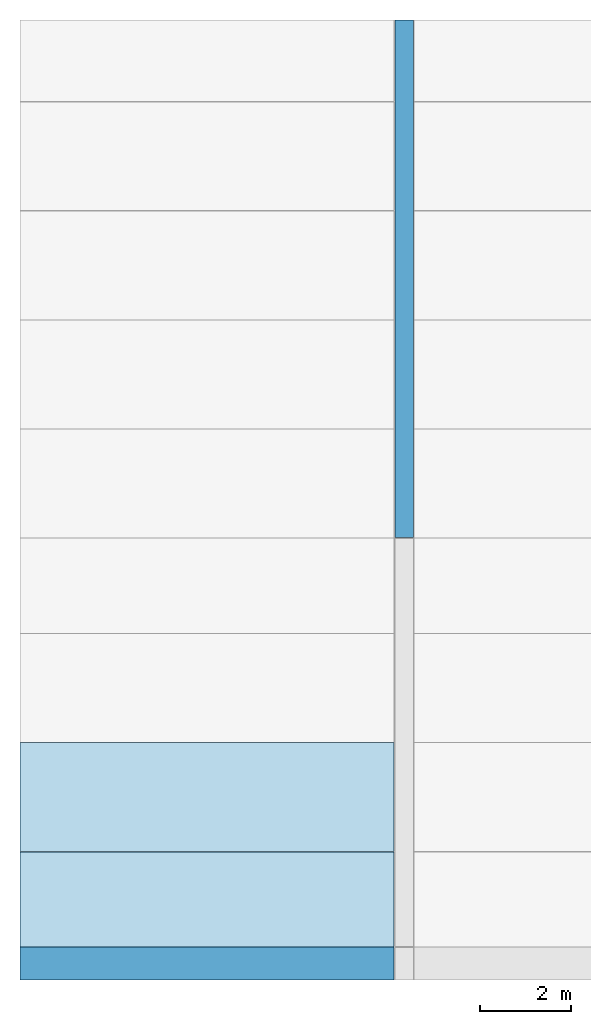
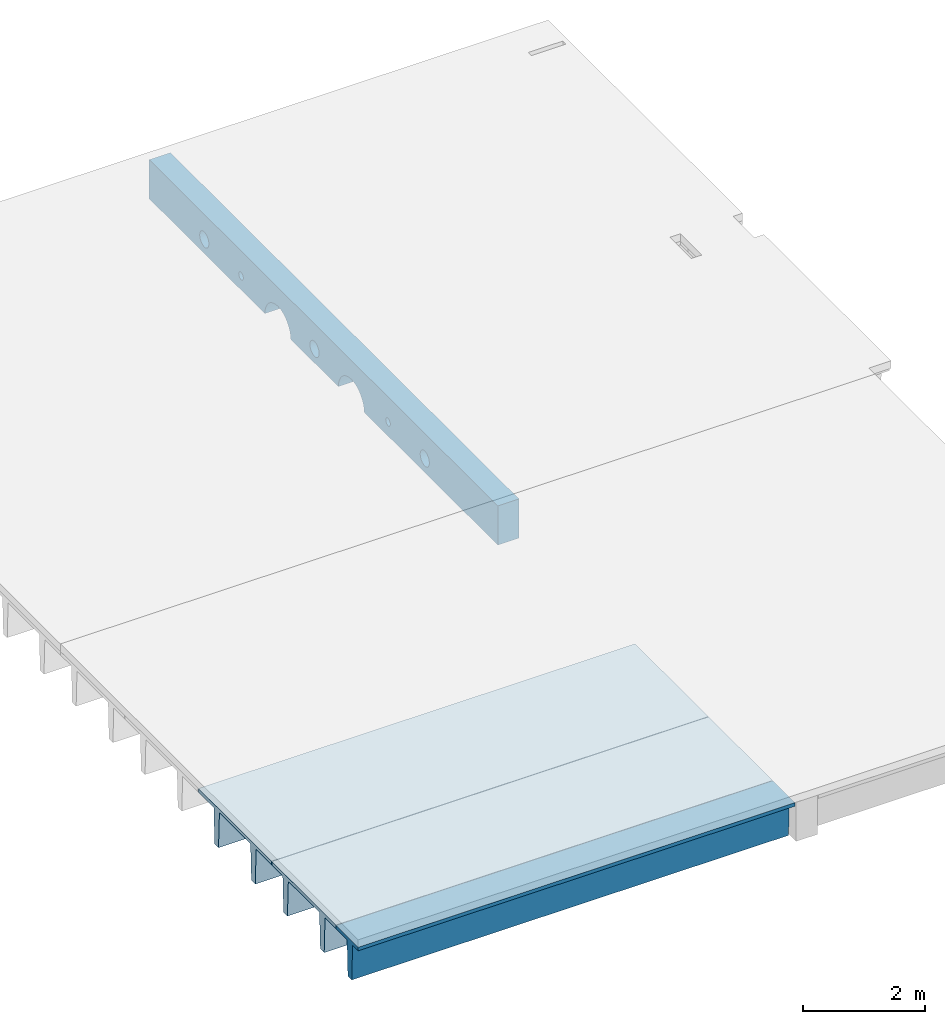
# One storey, part 2 of 4: 3 slabs, 1 beam.
"""IFC2X3 building model written with IfcOpenShell, lengths in millimetres."""

from ifc_helpers import new_model, entity, si_unit, converted_unit, derived_unit, direction, frame, origin_with_axes, place, context, subcontext, project, spatial, faceted_brep, type_object, element, save


model = new_model("IFC2X3")

# Units and contexts
model_context = context("Model", 3, precision=0.01, world=frame((0.0, 4.29681676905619e-09, 0.0)), true_north=direction((4.01073788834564e-13, 1.0)))
plan_context = context("Plan", 3, precision=0.01, world=frame((0.0, 4.29681676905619e-09, 0.0)), true_north=direction((4.01073788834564e-13, 1.0)))
body_context = subcontext(model_context, "Body", "Model", "MODEL_VIEW")
ifc_project = project(units=[converted_unit("PLANEANGLEUNIT", "DEGREE", entity("IfcPositiveLengthMeasure", 0.0174532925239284), si_unit("PLANEANGLEUNIT", "RADIAN"), dimensions=[0, 0, 0, 0, 0, 0, 0]), si_unit("AREAUNIT", "SQUARE_METRE"), si_unit("LENGTHUNIT", "METRE", prefix="MILLI"), si_unit("MASSUNIT", "GRAM", prefix="KILO"), si_unit("POWERUNIT", "WATT"), si_unit("PRESSUREUNIT", "PASCAL"), si_unit("FORCEUNIT", "NEWTON", prefix="KILO"), si_unit("ELECTRICVOLTAGEUNIT", "VOLT"), si_unit("ELECTRICCURRENTUNIT", "AMPERE"), si_unit("THERMODYNAMICTEMPERATUREUNIT", "DEGREE_CELSIUS"), si_unit("TIMEUNIT", "SECOND"), si_unit("VOLUMEUNIT", "CUBIC_METRE"), derived_unit("LINEARVELOCITYUNIT", [(si_unit("LENGTHUNIT", "METRE"), 1), (si_unit("TIMEUNIT", "SECOND"), -1)]), derived_unit("VOLUMETRICFLOWRATEUNIT", [(si_unit("VOLUMEUNIT", "CUBIC_METRE"), 1), (si_unit("TIMEUNIT", "SECOND"), -1)]), derived_unit("THERMALTRANSMITTANCEUNIT", [(si_unit("POWERUNIT", "WATT"), 1), (si_unit("THERMODYNAMICTEMPERATUREUNIT", "KELVIN"), -1), (si_unit("AREAUNIT", "SQUARE_METRE"), -1)]), derived_unit("SOUNDPRESSUREUNIT", [(si_unit("PRESSUREUNIT", "PASCAL"), 1)])], contexts=[model_context, plan_context])

# Site, building, storey
site_placement = place(None, frame((0.0, -4.29681676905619e-09, 0.0), z_axis=(0.0, 0.0, 1.0), x_axis=(1.0, 0.0, 0.0)))
site = spatial("IfcSite", under=ifc_project, at=site_placement, Name="Gardermoen", CompositionType="ELEMENT")
building_placement = place(site_placement, frame((0.0, 4.29681676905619e-09, 0.0), z_axis=(0.0, 0.0, 1.0), x_axis=(1.0, 0.0, 0.0)))
building = spatial("IfcBuilding", under=site, at=building_placement, Name="TS", CompositionType="ELEMENT")
storey_placement = place(building_placement, origin_with_axes())
storey = spatial("IfcBuildingStorey", under=building, at=storey_placement, Name="F", CompositionType="ELEMENT", Elevation=0.0)

# Beam
beam_type = type_object("IfcBeamType", Name="DLB400*1500-800*700", PredefinedType="NOTDEFINED")
beam_placement = place(storey_placement, frame((528999.999766, 462484.995625, 209930.0), z_axis=(0.0, 0.0, 1.0), x_axis=(0.0, -1.0, 0.0)))
element("IfcBeam", 1, at=beam_placement, inside=storey, type_object=beam_type, Name="PREFABBJELKE", ObjectType="DLB400*1500-800*700", context=body_context, shape_type="Brep", body=[
    faceted_brep([(9723.5819298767, -200.0, 192.597485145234), (9723.5819298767, 200.0, 192.597485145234), (9732.11779206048, 200.0, 220.736451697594), (9732.11779206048, -200.0, 220.736451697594), (9735.0, 200.0, 250.0), (9735.0, -200.0, 250.0), (9732.11779206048, 200.0, 279.263548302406), (9732.11779206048, -200.0, 279.263548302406), (9723.5819298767, 200.0, 307.402514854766), (9723.5819298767, -200.0, 307.402514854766), (9709.72044184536, 200.0, 333.33553495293), (9709.72044184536, -200.0, 333.33553495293), (9691.066017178, 200.0, 356.066017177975), (9691.066017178, -200.0, 356.066017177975), (9668.33553495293, 200.0, 374.720441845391), (9668.33553495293, -200.0, 374.720441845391), (9642.40251485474, 200.0, 388.581929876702), (9642.40251485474, -200.0, 388.581929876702), (9614.26354830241, 200.0, 397.117792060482), (9614.26354830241, -200.0, 397.117792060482), (9585.0, 200.0, 400.0), (9585.0, -200.0, 400.0), (9555.73645169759, 200.0, 397.117792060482), (9555.73645169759, -200.0, 397.117792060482), (9527.59748514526, 200.0, 388.581929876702), (9527.59748514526, -200.0, 388.581929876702), (9501.66446504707, 200.0, 374.720441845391), (9501.66446504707, -200.0, 374.720441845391), (9478.933982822, 200.0, 356.066017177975), (9478.933982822, -200.0, 356.066017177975), (9460.27955815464, 200.0, 333.33553495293), (9460.27955815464, -200.0, 333.33553495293), (9446.4180701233, 200.0, 307.402514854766), (9446.4180701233, -200.0, 307.402514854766), (9437.88220793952, 200.0, 279.263548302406), (9437.88220793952, -200.0, 279.263548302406), (9435.0, 200.0, 250.0), (9435.0, -200.0, 250.0), (9437.88220793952, 200.0, 220.736451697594), (9437.88220793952, -200.0, 220.736451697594), (9446.4180701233, 200.0, 192.597485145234), (9446.4180701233, -200.0, 192.597485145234), (9460.27955815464, 200.0, 166.66446504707), (9460.27955815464, -200.0, 166.66446504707), (9478.933982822, 200.0, 143.933982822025), (9478.933982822, -200.0, 143.933982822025), (9501.66446504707, 200.0, 125.279558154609), (9501.66446504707, -200.0, 125.279558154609), (9527.59748514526, 200.0, 111.418070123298), (9527.59748514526, -200.0, 111.418070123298), (9555.73645169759, 200.0, 102.882207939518), (9555.73645169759, -200.0, 102.882207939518), (9585.0, 200.0, 100.0), (9585.0, -200.0, 100.0), (9614.26354830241, 200.0, 102.882207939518), (9614.26354830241, -200.0, 102.882207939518), (9642.40251485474, 200.0, 111.418070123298), (9642.40251485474, -200.0, 111.418070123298), (9668.33553495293, 200.0, 125.279558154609), (9668.33553495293, -200.0, 125.279558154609), (9691.066017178, 200.0, 143.933982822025), (9691.066017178, -200.0, 143.933982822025), (9709.72044184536, 200.0, 166.66446504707), (9709.72044184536, -200.0, 166.66446504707), (5206.36406608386, -200.0, 5.47363169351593), (5206.36406608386, 200.0, 5.47363169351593), (5195.51847617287, 200.0, 59.998094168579), (5195.51847617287, -200.0, 59.998094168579), (5208.68913074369, -200.0, -30.0), (5208.68913074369, 200.0, -30.0), (4361.31086925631, 200.0, -30.0), (4361.31086925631, -200.0, -30.0), (4363.63593391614, -200.0, 5.47363169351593), (4363.63593391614, 200.0, 5.47363169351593), (4374.48152382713, -200.0, 59.998094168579), (4374.48152382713, 200.0, 59.998094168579), (4392.35119868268, -200.0, 112.640458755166), (4392.35119868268, 200.0, 112.640458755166), (4416.93920339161, -200.0, 162.5), (4416.93920339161, 200.0, 162.5), (4447.82483037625, -200.0, 208.72360732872), (4447.82483037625, 200.0, 208.72360732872), (4484.47961799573, -200.0, 250.520382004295), (4484.47961799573, 200.0, 250.520382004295), (4526.27639267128, -200.0, 287.175169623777), (4526.27639267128, 200.0, 287.175169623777), (4572.5, -200.0, 318.060796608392), (4572.5, 200.0, 318.060796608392), (4622.35954124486, -200.0, 342.648801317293), (4622.35954124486, 200.0, 342.648801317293), (4675.00190583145, -200.0, 360.518476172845), (4675.00190583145, 200.0, 360.518476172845), (4729.52636830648, -200.0, 371.364066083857), (4729.52636830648, 200.0, 371.364066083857), (4785.0, -200.0, 375.0), (4785.0, 200.0, 375.0), (4840.47363169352, -200.0, 371.364066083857), (4840.47363169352, 200.0, 371.364066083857), (4894.99809416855, -200.0, 360.518476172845), (4894.99809416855, 200.0, 360.518476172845), (4947.64045875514, -200.0, 342.648801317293), (4947.64045875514, 200.0, 342.648801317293), (4997.5, -200.0, 318.060796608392), (4997.5, 200.0, 318.060796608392), (5043.72360732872, -200.0, 287.175169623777), (5043.72360732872, 200.0, 287.175169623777), (5085.52038200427, -200.0, 250.520382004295), (5085.52038200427, 200.0, 250.520382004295), (5122.17516962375, -200.0, 208.72360732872), (5122.17516962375, 200.0, 208.72360732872), (5153.06079660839, -200.0, 162.5), (5153.06079660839, 200.0, 162.5), (5177.64880131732, -200.0, 112.640458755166), (5177.64880131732, 200.0, 112.640458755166), (11970.0, 200.0, -30.0), (11970.0, -200.0, -30.0), (11970.0, -200.0, 750.0), (11970.0, 200.0, 750.0), (584.995625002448, -200.0, 750.0), (584.995625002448, 200.0, 750.0), (6761.31086925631, 200.0, -29.9999999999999), (6761.31086925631, -200.0, -29.9999999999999), (6763.63593391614, -200.0, 5.47363169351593), (6763.63593391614, 200.0, 5.47363169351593), (6774.48152382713, -200.0, 59.998094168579), (6774.48152382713, 200.0, 59.998094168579), (6792.35119868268, -200.0, 112.640458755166), (6792.35119868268, 200.0, 112.640458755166), (6816.93920339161, -200.0, 162.5), (6816.93920339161, 200.0, 162.5), (6847.82483037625, -200.0, 208.72360732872), (6847.82483037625, 200.0, 208.72360732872), (6884.47961799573, -200.0, 250.520382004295), (6884.47961799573, 200.0, 250.520382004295), (6926.27639267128, -200.0, 287.175169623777), (6926.27639267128, 200.0, 287.175169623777), (6972.5, -200.0, 318.060796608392), (6972.5, 200.0, 318.060796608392), (7022.35954124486, -200.0, 342.648801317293), (7022.35954124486, 200.0, 342.648801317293), (7075.00190583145, -200.0, 360.518476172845), (7075.00190583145, 200.0, 360.518476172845), (7129.52636830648, -200.0, 371.364066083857), (7129.52636830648, 200.0, 371.364066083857), (7185.0, -200.0, 375.0), (7185.0, 200.0, 375.0), (7240.47363169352, -200.0, 371.364066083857), (7240.47363169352, 200.0, 371.364066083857), (7294.99809416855, -200.0, 360.518476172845), (7294.99809416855, 200.0, 360.518476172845), (7347.64045875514, -200.0, 342.648801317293), (7347.64045875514, 200.0, 342.648801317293), (7397.5, -200.0, 318.060796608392), (7397.5, 200.0, 318.060796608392), (7443.72360732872, -200.0, 287.175169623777), (7443.72360732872, 200.0, 287.175169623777), (7485.52038200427, -200.0, 250.520382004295), (7485.52038200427, 200.0, 250.520382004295), (7522.17516962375, -200.0, 208.72360732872), (7522.17516962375, 200.0, 208.72360732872), (7553.06079660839, -200.0, 162.5), (7553.06079660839, 200.0, 162.5), (7577.64880131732, -200.0, 112.640458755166), (7577.64880131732, 200.0, 112.640458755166), (7595.51847617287, -200.0, 59.998094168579), (7595.51847617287, 200.0, 59.998094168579), (7606.36406608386, -200.0, 5.47363169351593), (7606.36406608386, 200.0, 5.47363169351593), (7608.68913074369, -200.0, -30.0), (7608.68913074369, 200.0, -30.0), (6135.0, -200.0, 250.0), (6135.0, 200.0, 250.0), (6132.11779206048, 200.0, 279.263548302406), (6132.11779206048, -200.0, 279.263548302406), (6132.11779206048, -200.0, 220.736451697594), (6132.11779206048, 200.0, 220.736451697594), (6123.5819298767, -200.0, 192.597485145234), (6123.5819298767, 200.0, 192.597485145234), (6109.72044184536, -200.0, 166.66446504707), (6109.72044184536, 200.0, 166.66446504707), (6091.066017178, -200.0, 143.933982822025), (6091.066017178, 200.0, 143.933982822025), (6068.33553495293, -200.0, 125.279558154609), (6068.33553495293, 200.0, 125.279558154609), (6042.40251485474, -200.0, 111.418070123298), (6042.40251485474, 200.0, 111.418070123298), (6014.26354830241, -200.0, 102.882207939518), (6014.26354830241, 200.0, 102.882207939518), (5985.0, -200.0, 100.0), (5985.0, 200.0, 100.0), (5955.73645169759, -200.0, 102.882207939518), (5955.73645169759, 200.0, 102.882207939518), (5927.59748514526, -200.0, 111.418070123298), (5927.59748514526, 200.0, 111.418070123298), (5901.66446504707, -200.0, 125.279558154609), (5901.66446504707, 200.0, 125.279558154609), (5878.933982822, -200.0, 143.933982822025), (5878.933982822, 200.0, 143.933982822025), (5860.27955815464, -200.0, 166.66446504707), (5860.27955815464, 200.0, 166.66446504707), (5846.4180701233, -200.0, 192.597485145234), (5846.4180701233, 200.0, 192.597485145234), (5837.88220793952, -200.0, 220.736451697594), (5837.88220793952, 200.0, 220.736451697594), (5835.0, -200.0, 250.0), (5835.0, 200.0, 250.0), (5837.88220793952, -200.0, 279.263548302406), (5837.88220793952, 200.0, 279.263548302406), (5846.4180701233, -200.0, 307.402514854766), (5846.4180701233, 200.0, 307.402514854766), (5860.27955815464, -200.0, 333.33553495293), (5860.27955815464, 200.0, 333.33553495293), (5878.933982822, -200.0, 356.066017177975), (5878.933982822, 200.0, 356.066017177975), (5901.66446504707, -200.0, 374.720441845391), (5901.66446504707, 200.0, 374.720441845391), (5927.59748514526, -200.0, 388.581929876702), (5927.59748514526, 200.0, 388.581929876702), (5955.73645169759, -200.0, 397.117792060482), (5955.73645169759, 200.0, 397.117792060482), (5985.0, -200.0, 400.0), (5985.0, 200.0, 400.0), (6014.26354830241, -200.0, 397.117792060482), (6014.26354830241, 200.0, 397.117792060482), (6042.40251485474, -200.0, 388.581929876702), (6042.40251485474, 200.0, 388.581929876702), (6068.33553495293, -200.0, 374.720441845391), (6068.33553495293, 200.0, 374.720441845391), (6091.066017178, -200.0, 356.066017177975), (6091.066017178, 200.0, 356.066017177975), (6109.72044184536, -200.0, 333.33553495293), (6109.72044184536, 200.0, 333.33553495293), (6123.5819298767, -200.0, 307.402514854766), (6123.5819298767, 200.0, 307.402514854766), (3660.0, -200.0, 250.0), (3660.0, 200.0, 250.0), (3657.44443697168, 200.0, 269.411428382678), (3657.44443697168, -200.0, 269.411428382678), (3657.44443697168, -200.0, 230.588571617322), (3657.44443697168, 200.0, 230.588571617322), (3649.95190528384, -200.0, 212.5), (3649.95190528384, 200.0, 212.5), (3638.033008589, -200.0, 196.966991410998), (3638.033008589, 200.0, 196.966991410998), (3622.5, -200.0, 185.048094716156), (3622.5, 200.0, 185.048094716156), (3604.41142838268, -200.0, 177.55556302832), (3604.41142838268, 200.0, 177.55556302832), (3585.0, -200.0, 175.0), (3585.0, 200.0, 175.0), (3565.58857161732, -200.0, 177.55556302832), (3565.58857161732, 200.0, 177.55556302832), (3547.5, -200.0, 185.048094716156), (3547.5, 200.0, 185.048094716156), (3531.966991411, -200.0, 196.966991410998), (3531.966991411, 200.0, 196.966991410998), (3520.04809471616, -200.0, 212.5), (3520.04809471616, 200.0, 212.5), (3512.55556302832, -200.0, 230.588571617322), (3512.55556302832, 200.0, 230.588571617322), (3510.0, -200.0, 250.0), (3510.0, 200.0, 250.0), (3512.55556302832, -200.0, 269.411428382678), (3512.55556302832, 200.0, 269.411428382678), (3520.04809471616, -200.0, 287.5), (3520.04809471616, 200.0, 287.5), (3531.966991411, -200.0, 303.033008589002), (3531.966991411, 200.0, 303.033008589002), (3547.5, -200.0, 314.951905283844), (3547.5, 200.0, 314.951905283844), (3565.58857161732, -200.0, 322.44443697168), (3565.58857161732, 200.0, 322.44443697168), (3585.0, -200.0, 325.0), (3585.0, 200.0, 325.0), (3604.41142838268, -200.0, 322.44443697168), (3604.41142838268, 200.0, 322.44443697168), (3622.5, -200.0, 314.951905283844), (3622.5, 200.0, 314.951905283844), (3638.033008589, -200.0, 303.033008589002), (3638.033008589, 200.0, 303.033008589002), (3649.95190528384, -200.0, 287.5), (3649.95190528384, 200.0, 287.5), (2535.0, -200.0, 250.0), (2535.0, 200.0, 250.0), (2532.11779206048, 200.0, 279.263548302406), (2532.11779206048, -200.0, 279.263548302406), (2532.11779206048, -200.0, 220.736451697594), (2532.11779206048, 200.0, 220.736451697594), (2523.5819298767, -200.0, 192.597485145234), (2523.5819298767, 200.0, 192.597485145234), (2509.72044184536, -200.0, 166.66446504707), (2509.72044184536, 200.0, 166.66446504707), (2491.066017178, -200.0, 143.933982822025), (2491.066017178, 200.0, 143.933982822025), (2468.33553495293, -200.0, 125.279558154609), (2468.33553495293, 200.0, 125.279558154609), (2442.40251485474, -200.0, 111.418070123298), (2442.40251485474, 200.0, 111.418070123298), (2414.26354830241, -200.0, 102.882207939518), (2414.26354830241, 200.0, 102.882207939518), (2385.0, -200.0, 100.0), (2385.0, 200.0, 100.0), (2355.73645169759, -200.0, 102.882207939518), (2355.73645169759, 200.0, 102.882207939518), (2327.59748514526, -200.0, 111.418070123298), (2327.59748514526, 200.0, 111.418070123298), (2301.66446504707, -200.0, 125.279558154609), (2301.66446504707, 200.0, 125.279558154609), (2278.933982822, -200.0, 143.933982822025), (2278.933982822, 200.0, 143.933982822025), (2260.27955815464, -200.0, 166.66446504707), (2260.27955815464, 200.0, 166.66446504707), (2246.4180701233, -200.0, 192.597485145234), (2246.4180701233, 200.0, 192.597485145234), (2237.88220793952, -200.0, 220.736451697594), (2237.88220793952, 200.0, 220.736451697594), (2235.0, -200.0, 250.0), (2235.0, 200.0, 250.0), (2237.88220793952, -200.0, 279.263548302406), (2237.88220793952, 200.0, 279.263548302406), (2246.4180701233, -200.0, 307.402514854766), (2246.4180701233, 200.0, 307.402514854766), (2260.27955815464, -200.0, 333.33553495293), (2260.27955815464, 200.0, 333.33553495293), (2278.933982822, -200.0, 356.066017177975), (2278.933982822, 200.0, 356.066017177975), (2301.66446504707, -200.0, 374.720441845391), (2301.66446504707, 200.0, 374.720441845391), (2327.59748514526, -200.0, 388.581929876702), (2327.59748514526, 200.0, 388.581929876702), (2355.73645169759, -200.0, 397.117792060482), (2355.73645169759, 200.0, 397.117792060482), (2385.0, -200.0, 400.0), (2385.0, 200.0, 400.0), (2414.26354830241, -200.0, 397.117792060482), (2414.26354830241, 200.0, 397.117792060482), (2442.40251485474, -200.0, 388.581929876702), (2442.40251485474, 200.0, 388.581929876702), (2468.33553495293, -200.0, 374.720441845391), (2468.33553495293, 200.0, 374.720441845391), (2491.066017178, -200.0, 356.066017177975), (2491.066017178, 200.0, 356.066017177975), (2509.72044184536, -200.0, 333.33553495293), (2509.72044184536, 200.0, 333.33553495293), (2523.5819298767, -200.0, 307.402514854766), (2523.5819298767, 200.0, 307.402514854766), (584.995625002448, -200.0, -30.0), (8457.44443697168, -200.0, 230.588571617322), (8460.0, -200.0, 250.0), (8457.44443697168, -200.0, 269.411428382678), (8449.95190528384, -200.0, 287.5), (8438.033008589, -200.0, 303.033008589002), (8422.5, -200.0, 314.951905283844), (8404.41142838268, -200.0, 322.44443697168), (8385.0, -200.0, 325.0), (8365.58857161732, -200.0, 322.44443697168), (8347.5, -200.0, 314.951905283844), (8331.966991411, -200.0, 303.033008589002), (8320.04809471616, -200.0, 287.5), (8312.55556302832, -200.0, 269.411428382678), (8310.0, -200.0, 250.0), (8312.55556302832, -200.0, 230.588571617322), (8320.04809471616, -200.0, 212.5), (8331.966991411, -200.0, 196.966991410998), (8347.5, -200.0, 185.048094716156), (8365.58857161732, -200.0, 177.55556302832), (8385.0, -200.0, 175.0), (8404.41142838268, -200.0, 177.55556302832), (8422.5, -200.0, 185.048094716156), (8438.033008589, -200.0, 196.966991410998), (8449.95190528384, -200.0, 212.5), (8457.44443697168, 200.0, 269.411428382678), (8449.95190528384, 200.0, 287.5), (8460.0, 200.0, 250.0), (8457.44443697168, 200.0, 230.588571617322), (8449.95190528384, 200.0, 212.5), (8438.033008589, 200.0, 196.966991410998), (8422.5, 200.0, 185.048094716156), (8404.41142838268, 200.0, 177.55556302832), (8385.0, 200.0, 175.0), (8365.58857161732, 200.0, 177.55556302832), (8347.5, 200.0, 185.048094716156), (8331.966991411, 200.0, 196.966991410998), (8320.04809471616, 200.0, 212.5), (8312.55556302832, 200.0, 230.588571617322), (8310.0, 200.0, 250.0), (8312.55556302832, 200.0, 269.411428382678), (8320.04809471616, 200.0, 287.5), (8331.966991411, 200.0, 303.033008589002), (8347.5, 200.0, 314.951905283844), (8365.58857161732, 200.0, 322.44443697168), (8385.0, 200.0, 325.0), (8404.41142838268, 200.0, 322.44443697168), (8422.5, 200.0, 314.951905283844), (8438.033008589, 200.0, 303.033008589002), (584.995625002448, 200.0, -30.0)], [[[0, 1, 2, 3]], [[3, 2, 4, 5]], [[5, 4, 6, 7]], [[7, 6, 8, 9]], [[9, 8, 10, 11]], [[11, 10, 12, 13]], [[13, 12, 14, 15]], [[15, 14, 16, 17]], [[17, 16, 18, 19]], [[19, 18, 20, 21]], [[21, 20, 22, 23]], [[23, 22, 24, 25]], [[25, 24, 26, 27]], [[27, 26, 28, 29]], [[29, 28, 30, 31]], [[31, 30, 32, 33]], [[33, 32, 34, 35]], [[35, 34, 36, 37]], [[37, 36, 38, 39]], [[39, 38, 40, 41]], [[41, 40, 42, 43]], [[43, 42, 44, 45]], [[45, 44, 46, 47]], [[47, 46, 48, 49]], [[49, 48, 50, 51]], [[51, 50, 52, 53]], [[53, 52, 54, 55]], [[55, 54, 56, 57]], [[57, 56, 58, 59]], [[59, 58, 60, 61]], [[61, 60, 62, 63]], [[63, 62, 1, 0]], [[64, 65, 66, 67]], [[68, 69, 65, 64]], [[70, 71, 72, 73]], [[74, 75, 73, 72]], [[76, 77, 75, 74]], [[78, 79, 77, 76]], [[80, 81, 79, 78]], [[82, 83, 81, 80]], [[84, 85, 83, 82]], [[86, 87, 85, 84]], [[88, 89, 87, 86]], [[90, 91, 89, 88]], [[92, 93, 91, 90]], [[94, 95, 93, 92]], [[96, 97, 95, 94]], [[98, 99, 97, 96]], [[100, 101, 99, 98]], [[102, 103, 101, 100]], [[104, 105, 103, 102]], [[106, 107, 105, 104]], [[108, 109, 107, 106]], [[110, 111, 109, 108]], [[112, 113, 111, 110]], [[67, 66, 113, 112]], [[114, 115, 116, 117]], [[118, 119, 117, 116]], [[120, 121, 122, 123]], [[124, 125, 123, 122]], [[126, 127, 125, 124]], [[128, 129, 127, 126]], [[130, 131, 129, 128]], [[132, 133, 131, 130]], [[134, 135, 133, 132]], [[136, 137, 135, 134]], [[138, 139, 137, 136]], [[140, 141, 139, 138]], [[142, 143, 141, 140]], [[144, 145, 143, 142]], [[146, 147, 145, 144]], [[148, 149, 147, 146]], [[150, 151, 149, 148]], [[152, 153, 151, 150]], [[154, 155, 153, 152]], [[156, 157, 155, 154]], [[158, 159, 157, 156]], [[160, 161, 159, 158]], [[162, 163, 161, 160]], [[164, 165, 163, 162]], [[166, 167, 165, 164]], [[168, 169, 167, 166]], [[170, 171, 172, 173]], [[174, 175, 171, 170]], [[176, 177, 175, 174]], [[178, 179, 177, 176]], [[180, 181, 179, 178]], [[182, 183, 181, 180]], [[184, 185, 183, 182]], [[186, 187, 185, 184]], [[188, 189, 187, 186]], [[190, 191, 189, 188]], [[192, 193, 191, 190]], [[194, 195, 193, 192]], [[196, 197, 195, 194]], [[198, 199, 197, 196]], [[200, 201, 199, 198]], [[202, 203, 201, 200]], [[204, 205, 203, 202]], [[206, 207, 205, 204]], [[208, 209, 207, 206]], [[210, 211, 209, 208]], [[212, 213, 211, 210]], [[214, 215, 213, 212]], [[216, 217, 215, 214]], [[218, 219, 217, 216]], [[220, 221, 219, 218]], [[222, 223, 221, 220]], [[224, 225, 223, 222]], [[226, 227, 225, 224]], [[228, 229, 227, 226]], [[230, 231, 229, 228]], [[232, 233, 231, 230]], [[173, 172, 233, 232]], [[234, 235, 236, 237]], [[238, 239, 235, 234]], [[240, 241, 239, 238]], [[242, 243, 241, 240]], [[244, 245, 243, 242]], [[246, 247, 245, 244]], [[248, 249, 247, 246]], [[250, 251, 249, 248]], [[252, 253, 251, 250]], [[254, 255, 253, 252]], [[256, 257, 255, 254]], [[258, 259, 257, 256]], [[260, 261, 259, 258]], [[262, 263, 261, 260]], [[264, 265, 263, 262]], [[266, 267, 265, 264]], [[268, 269, 267, 266]], [[270, 271, 269, 268]], [[272, 273, 271, 270]], [[274, 275, 273, 272]], [[276, 277, 275, 274]], [[278, 279, 277, 276]], [[280, 281, 279, 278]], [[237, 236, 281, 280]], [[282, 283, 284, 285]], [[286, 287, 283, 282]], [[288, 289, 287, 286]], [[290, 291, 289, 288]], [[292, 293, 291, 290]], [[294, 295, 293, 292]], [[296, 297, 295, 294]], [[298, 299, 297, 296]], [[300, 301, 299, 298]], [[302, 303, 301, 300]], [[304, 305, 303, 302]], [[306, 307, 305, 304]], [[308, 309, 307, 306]], [[310, 311, 309, 308]], [[312, 313, 311, 310]], [[314, 315, 313, 312]], [[316, 317, 315, 314]], [[318, 319, 317, 316]], [[320, 321, 319, 318]], [[322, 323, 321, 320]], [[324, 325, 323, 322]], [[326, 327, 325, 324]], [[328, 329, 327, 326]], [[330, 331, 329, 328]], [[332, 333, 331, 330]], [[334, 335, 333, 332]], [[336, 337, 335, 334]], [[338, 339, 337, 336]], [[340, 341, 339, 338]], [[342, 343, 341, 340]], [[344, 345, 343, 342]], [[285, 284, 345, 344]], [[71, 346, 118, 116, 115, 168, 166, 164, 162, 160, 158, 156, 154, 152, 150, 148, 146, 144, 142, 140, 138, 136, 134, 132, 130, 128, 126, 124, 122, 121, 68, 64, 67, 112, 110, 108, 106, 104, 102, 100, 98, 96, 94, 92, 90, 88, 86, 84, 82, 80, 78, 76, 74, 72], [3, 5, 7, 9, 11, 13, 15, 17, 19, 21, 23, 25, 27, 29, 31, 33, 35, 37, 39, 41, 43, 45, 47, 49, 51, 53, 55, 57, 59, 61, 63, 0], [347, 348, 349, 350, 351, 352, 353, 354, 355, 356, 357, 358, 359, 360, 361, 362, 363, 364, 365, 366, 367, 368, 369, 370], [286, 282, 285, 344, 342, 340, 338, 336, 334, 332, 330, 328, 326, 324, 322, 320, 318, 316, 314, 312, 310, 308, 306, 304, 302, 300, 298, 296, 294, 292, 290, 288], [238, 234, 237, 280, 278, 276, 274, 272, 270, 268, 266, 264, 262, 260, 258, 256, 254, 252, 250, 248, 246, 244, 242, 240], [174, 170, 173, 232, 230, 228, 226, 224, 222, 220, 218, 216, 214, 212, 210, 208, 206, 204, 202, 200, 198, 196, 194, 192, 190, 188, 186, 184, 182, 180, 178, 176]], [[349, 371, 372, 350]], [[348, 373, 371, 349]], [[347, 374, 373, 348]], [[370, 375, 374, 347]], [[369, 376, 375, 370]], [[368, 377, 376, 369]], [[367, 378, 377, 368]], [[366, 379, 378, 367]], [[365, 380, 379, 366]], [[364, 381, 380, 365]], [[363, 382, 381, 364]], [[362, 383, 382, 363]], [[361, 384, 383, 362]], [[360, 385, 384, 361]], [[359, 386, 385, 360]], [[358, 387, 386, 359]], [[357, 388, 387, 358]], [[356, 389, 388, 357]], [[355, 390, 389, 356]], [[354, 391, 390, 355]], [[353, 392, 391, 354]], [[352, 393, 392, 353]], [[351, 394, 393, 352]], [[350, 372, 394, 351]], [[69, 120, 123, 125, 127, 129, 131, 133, 135, 137, 139, 141, 143, 145, 147, 149, 151, 153, 155, 157, 159, 161, 163, 165, 167, 169, 114, 117, 119, 395, 70, 73, 75, 77, 79, 81, 83, 85, 87, 89, 91, 93, 95, 97, 99, 101, 103, 105, 107, 109, 111, 113, 66, 65], [6, 4, 2, 1, 62, 60, 58, 56, 54, 52, 50, 48, 46, 44, 42, 40, 38, 36, 34, 32, 30, 28, 26, 24, 22, 20, 18, 16, 14, 12, 10, 8], [371, 373, 374, 375, 376, 377, 378, 379, 380, 381, 382, 383, 384, 385, 386, 387, 388, 389, 390, 391, 392, 393, 394, 372], [284, 283, 287, 289, 291, 293, 295, 297, 299, 301, 303, 305, 307, 309, 311, 313, 315, 317, 319, 321, 323, 325, 327, 329, 331, 333, 335, 337, 339, 341, 343, 345], [236, 235, 239, 241, 243, 245, 247, 249, 251, 253, 255, 257, 259, 261, 263, 265, 267, 269, 271, 273, 275, 277, 279, 281], [172, 171, 175, 177, 179, 181, 183, 185, 187, 189, 191, 193, 195, 197, 199, 201, 203, 205, 207, 209, 211, 213, 215, 217, 219, 221, 223, 225, 227, 229, 231, 233]], [[395, 119, 118, 346]], [[346, 71, 70, 395]], [[121, 120, 69, 68]], [[169, 168, 115, 114]]], orient=[[False], [False], [False], [False], [False], [False], [False], [False], [False], [False], [False], [False], [False], [False], [False], [False], [False], [False], [False], [False], [False], [False], [False], [False], [False], [False], [False], [False], [False], [False], [False], [False], [False], [False], [False], [False], [False], [False], [False], [False], [False], [False], [False], [False], [False], [False], [False], [False], [False], [False], [False], [False], [False], [False], [False], [False], [False], [False], [False], [False], [False], [False], [False], [False], [False], [False], [False], [False], [False], [False], [False], [False], [False], [False], [False], [False], [False], [False], [False], [False], [False], [False], [False], [False], [False], [False], [False], [False], [False], [False], [False], [False], [False], [False], [False], [False], [False], [False], [False], [False], [False], [False], [False], [False], [False], [False], [False], [False], [False], [False], [False], [False], [False], [False], [False], [False], [False], [False], [False], [False], [False], [False], [False], [False], [False], [False], [False], [False], [False], [False], [False], [False], [False], [False], [False], [False], [False], [False], [False], [False], [False], [False], [False], [False], [False], [False], [False], [False], [False], [False], [False], [False], [False], [False], [False], [False], [False], [False], [False], [False], [False], [False], [False], [False], [False], [False], [False], [False], [False], [False], [False, False, False, False, False, False], [False], [False], [False], [False], [False], [False], [False], [False], [False], [False], [False], [False], [False], [False], [False], [False], [False], [False], [False], [False], [False], [False], [False], [False], [False, False, False, False, False, False], [False], [False], [False], [False]]),
])

# Slabs
slab_type_1 = type_object("IfcSlabType", Name="TT800*2394-125-70-1200-0.04-0-0", PredefinedType="NOTDEFINED")
slab_1_placement = place(storey_placement, frame((520219.999766, 444799.995625, 210280.0), z_axis=(0.0, 0.0, 1.0), x_axis=(1.0, 0.0, 0.0)))
element("IfcSlab", 2, at=slab_1_placement, inside=storey, type_object=slab_type_1, Name="DT", ObjectType="TT800*2394-125-70-1200-0.04-0-0", PredefinedType="FLOOR", context=body_context, shape_type="Brep", body=[
    faceted_brep([(324.987734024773, -1197.0, 330.0), (324.987734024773, -1197.0, 400.0), (8560.0, -1197.0, 400.0), (8560.0, -1197.0, 330.0), (324.987734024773, -691.700000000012, 330.0), (8560.0, -691.700000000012, 330.0), (8560.0, -663.3, -380.0), (324.987734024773, -663.3, -380.0), (324.987734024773, -508.299999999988, 330.0), (324.987734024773, -536.700000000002, -380.0), (8560.0, -536.7, -380.0), (8560.0, -508.299999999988, 330.0), (324.987734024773, 508.299999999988, 330.0), (8560.0, 508.299999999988, 330.0), (8560.0, 536.7, -380.0), (324.987734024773, 536.699999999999, -380.0), (324.987734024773, 691.700000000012, 330.0), (324.987734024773, 663.300000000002, -380.0), (8560.0, 663.3, -380.0), (8560.0, 691.700000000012, 330.0), (324.987734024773, 1197.0, 330.0), (8560.0, 1197.0, 330.0), (324.987734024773, 1197.0, 400.0), (8560.0, 1197.0, 400.0)], [[[0, 1, 2, 3]], [[4, 0, 3, 5]], [[6, 7, 4, 5]], [[8, 9, 10, 11]], [[12, 8, 11, 13]], [[14, 15, 12, 13]], [[16, 17, 18, 19]], [[20, 16, 19, 21]], [[22, 20, 21, 23]], [[1, 22, 23, 2]], [[18, 14, 13, 11, 10, 6, 5, 3, 2, 23, 21, 19]], [[9, 8, 12, 15, 17, 16, 20, 22, 1, 0, 4, 7]], [[7, 6, 10, 9]], [[15, 14, 18, 17]]], orient=[[False], [False], [False], [False], [False], [False], [False], [False], [False], [False], [False], [False], [False], [False]]),
])
slab_type_2 = type_object("IfcSlabType", Name="TT800*2094-125-70-1200-0.04-0-0", PredefinedType="NOTDEFINED")
slab_2_placement = place(storey_placement, frame((520219.999766, 442550.0, 210280.0), z_axis=(0.0, 0.0, 1.0), x_axis=(1.0, 0.0, 0.0)))
element("IfcSlab", 3, at=slab_2_placement, inside=storey, type_object=slab_type_2, Name="DT", ObjectType="TT800*2094-125-70-1200-0.04-0-0", PredefinedType="FLOOR", context=body_context, shape_type="Brep", body=[
    faceted_brep([(324.987734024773, -1047.0, 330.0), (324.987734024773, -1047.0, 400.0), (8560.0, -1047.0, 400.0), (8560.0, -1047.0, 330.0), (324.987734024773, -691.700000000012, 330.0), (8560.0, -691.700000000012, 330.0), (8560.0, -663.3, -380.0), (324.987734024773, -663.299999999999, -380.0), (324.987734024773, -508.299999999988, 330.0), (324.987734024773, -536.700000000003, -380.0), (8560.0, -536.7, -380.0), (8560.0, -508.299999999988, 330.0), (324.987734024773, 508.299999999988, 330.0), (8560.0, 508.299999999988, 330.0), (8560.0, 536.7, -380.0), (324.987734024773, 536.699999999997, -380.0), (324.987734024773, 691.700000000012, 330.0), (324.987734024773, 663.299999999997, -380.0), (8560.0, 663.3, -380.0), (8560.0, 691.700000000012, 330.0), (324.987734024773, 1047.0, 330.0), (8560.0, 1047.0, 330.0), (324.987734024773, 1047.0, 400.0), (8560.0, 1047.0, 400.0)], [[[0, 1, 2, 3]], [[4, 0, 3, 5]], [[6, 7, 4, 5]], [[8, 9, 10, 11]], [[12, 8, 11, 13]], [[14, 15, 12, 13]], [[16, 17, 18, 19]], [[20, 16, 19, 21]], [[22, 20, 21, 23]], [[1, 22, 23, 2]], [[18, 14, 13, 11, 10, 6, 5, 3, 2, 23, 21, 19]], [[9, 8, 12, 15, 17, 16, 20, 22, 1, 0, 4, 7]], [[7, 6, 10, 9]], [[15, 14, 18, 17]]], orient=[[False], [False], [False], [False], [False], [False], [False], [False], [False], [False], [False], [False], [False], [False]]),
])
slab_3_placement = place(storey_placement, frame((520219.999766, 440449.996224, 210280.0), z_axis=(0.0, 0.0, 1.0), x_axis=(1.0, 0.0, 0.0)))
element("IfcSlab", 4, at=slab_3_placement, inside=storey, type_object=slab_type_2, Name="DT", ObjectType="TT800*2094-125-70-1200-0.04-0-0", PredefinedType="FLOOR", context=body_context, shape_type="Brep", body=[
    faceted_brep([(324.987734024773, 508.299999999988, 330.0), (324.987734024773, 325.003775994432, 330.0), (8560.0, 325.003775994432, 330.0), (8560.0, 508.299999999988, 330.0), (8560.0, 536.7, -380.0), (324.987734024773, 536.699999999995, -380.0), (324.987734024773, 691.700000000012, 330.0), (324.987734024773, 663.299999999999, -380.0), (8560.0, 663.3, -380.0), (8560.0, 691.700000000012, 330.0), (324.987734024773, 1047.0, 330.0), (8560.0, 1047.0, 330.0), (324.987734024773, 1047.0, 400.0), (8560.0, 1047.0, 400.0), (8560.0, 325.003775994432, 400.0), (324.987734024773, 325.003775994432, 400.0)], [[[0, 1, 2, 3]], [[4, 5, 0, 3]], [[6, 7, 8, 9]], [[10, 6, 9, 11]], [[12, 10, 11, 13]], [[14, 15, 12, 13]], [[8, 4, 3, 2, 14, 13, 11, 9]], [[7, 6, 10, 12, 15, 1, 0, 5]], [[15, 14, 2, 1]], [[5, 4, 8, 7]]], orient=[[False], [False], [False], [False], [False], [False], [False], [False], [False], [False]]),
])

save(model, "model.ifc")
